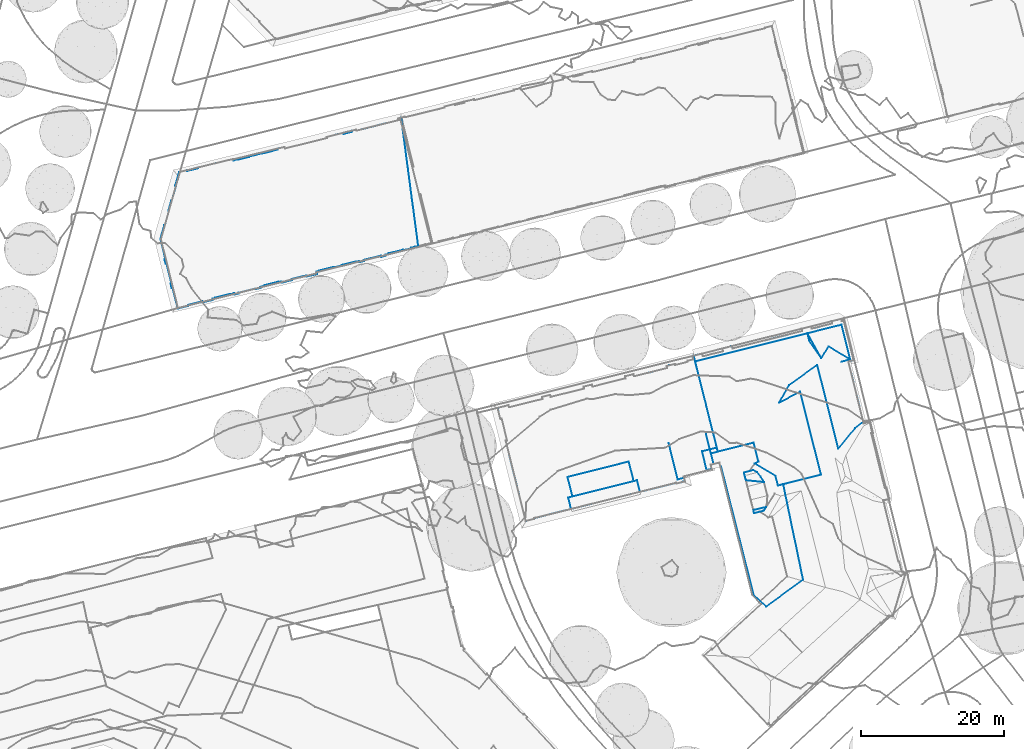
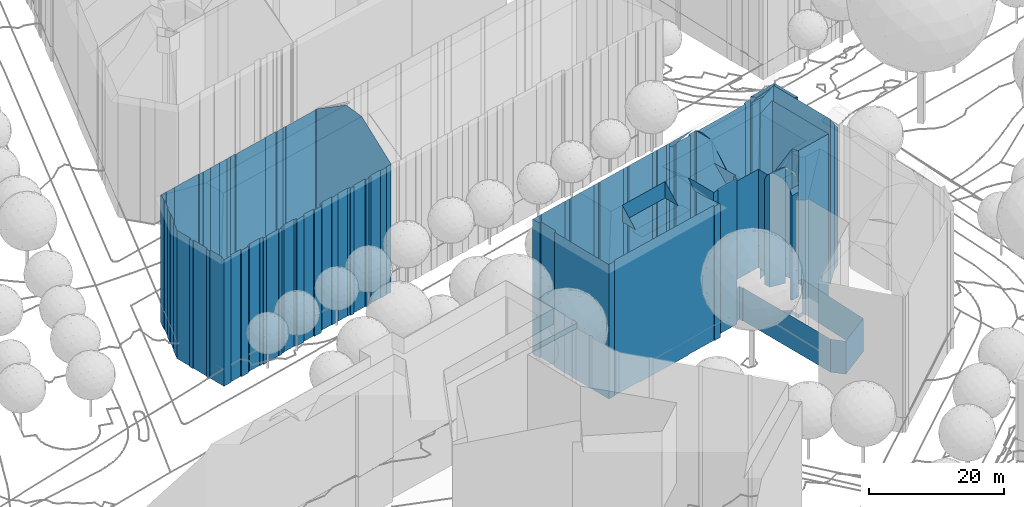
# Not in any storey, part 27 of 494: 2 walls.
"""IFC2X3 model written with IfcOpenShell, lengths in metres."""

from ifc_helpers import new_model, si_unit, frame, origin_with_axes, place, context, subcontext, project, faceted_brep, element, save


model = new_model("IFC2X3")

# Units and contexts
model_context = context("Model", 3, precision=1e-05, world=origin_with_axes())
body_context = subcontext(model_context, "Body", "Model", "MODEL_VIEW")
ifc_project = project(units=[si_unit("AREAUNIT", "SQUARE_METRE"), si_unit("LENGTHUNIT", "METRE")], contexts=[model_context])

# Walls
wall_1_placement = place(None, frame((124.1537320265, 278.7713160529, 533.7988), z_axis=(0.0, 0.0, 1.0), x_axis=(1.0, 0.0, 0.0)))
element("IfcWall", 1, at=wall_1_placement, Name="Wall 1", context=body_context, shape_type="Brep", body=[
    faceted_brep([(2.2820000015, 26.375, 6.6974), (2.1279999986, 26.995099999, 6.6974), (2.2820000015, 26.375, 0.6939), (2.381000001, 26.3975000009, 6.6974), (2.381000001, 26.3975000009, 0.6939), (6.9510000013, 8.4501999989, 6.6973), (6.9510000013, 8.4501999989, 0.6939), (8.6559999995, 6.8436999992, 6.6973), (8.6559999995, 6.8436999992, 0.6939), (13.8410000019, 10.6182000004, 6.6973), (13.8410000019, 10.6182000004, 0.6939), (11.068, 23.9716999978, 6.6974), (11.068, 23.9716999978, 0.6939), (-0.2919999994, 28.5762000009, 0.7269), (1.7730000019, 29.0907999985, 0.7269), (-0.2919999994, 28.5762000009, 0.6939), (0.3469999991, 25.9521000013, 0.7269), (0.3469999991, 25.9521000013, 0.6939), (1.0610000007, 26.1083999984, 0.7269), (1.0610000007, 26.1083999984, 0.6939), (10.4750000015, 35.365199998, 29.9172), (13.4299999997, 36.9188999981, 0.0), (10.4750000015, 35.365199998, 0.0), (13.4299999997, 36.9188999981, 30.2961), (16.3480000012, 25.2978000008, 30.2961), (11.8619999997, 37.8427999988, 30.2961), (11.8619999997, 37.8427999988, 0.0), (15.8280000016, 40.6669999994, 29.9172), (15.8280000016, 40.6669999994, 0.0), (18.7740000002, 28.9307000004, 29.9171), (18.7740000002, 28.9307000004, 0.0), (21.1400000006, 31.8506000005, 26.4205), (21.1400000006, 31.8506000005, 0.0), (14.4530000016, 45.0850000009, 2.6808), (14.4530000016, 45.0850000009, 2.8947), (16.3949999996, 41.6054999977, 2.8947), (14.4530000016, 45.0850000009, 0.0), (16.3949999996, 41.6054999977, 0.0), (17.379999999, 43.2344000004, 0.0), (17.379999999, 43.2344000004, 2.8947), (20.4450000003, 41.4248000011, 0.0), (20.4450000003, 41.4248000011, 2.8947), (20.4459999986, 41.4248000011, 2.6808), (22.2650000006, 32.7509999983, 24.8986), (22.2650000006, 32.7509999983, 0.0), (9.9919999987, 25.1123000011, 29.9171), (7.0700000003, 26.8691000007, 24.4947), (9.9919999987, 25.1123000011, 6.6974), (9.9919999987, 25.1123000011, 0.0), (9.9919999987, 25.1123000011, 0.6939), (7.0700000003, 26.8691000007, 0.0), (7.0700000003, 26.8691000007, 0.6939), (7.5890000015, 27.1444999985, 24.4947), (7.0700000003, 26.8691000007, 6.6974), (7.5890000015, 27.1444999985, 0.6939), (16.3480000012, 25.2978000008, 0.0), (10.324000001, 23.7841999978, 30.2961), (10.324000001, 23.7841999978, 0.0), (10.324000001, 23.7841999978, 6.6974), (10.324000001, 23.7841999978, 0.6939), (6.9270000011, 29.7802999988, 0.6939), (7.5890000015, 27.1444999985, 0.0), (6.9270000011, 29.7802999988, 24.4947), (7.5890000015, 27.1444999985, 6.6974), (1.9149999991, 28.5234000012, 0.6939), (6.9270000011, 29.7802999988, 0.0), (8.3839999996, 24.2577999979, 27.7623), (5.8379999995, 24.5194999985, 27.2494), (8.3839999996, 24.2577999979, 6.6974), (7.9239999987, 25.0429999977, 27.1874), (7.9239999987, 25.0429999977, 6.6974), (-2.7980000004, 24.8671999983, 27.1294), (-3.6860000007, 24.6444999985, 25.5946), (-2.7980000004, 24.8671999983, 24.8196), (-19.1160000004, 24.9853000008, 30.0042), (-18.4299999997, 22.254900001, 26.9644), (-19.1160000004, 24.9853000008, 26.9974), (-10.5449999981, 27.1387000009, 30.0042), (-10.5449999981, 27.1387000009, 26.9974), (-9.8599999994, 24.4043000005, 26.9644), (-3.8979999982, 24.1668999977, 25.1506), (-3.8979999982, 24.1668999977, 19.0452), (-3.8720000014, 24.0623999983, 0.7269), (-3.8979999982, 24.1669999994, 6.8334), (-3.8979999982, 24.1669999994, 12.9388), (1.0769999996, 26.0429999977, 27.1294), (-2.8480000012, 25.066399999, 27.1294), (1.0769999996, 26.0429999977, 0.7269), (-23.8280000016, 19.2030999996, 25.1916), (-23.8049999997, 19.1112999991, 25.0886), (-23.8280000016, 19.2030999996, 0.727), (-23.8049999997, 19.1112000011, 15.9145), (-28.5179999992, 33.1015999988, 14.3297), (-28.5179999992, 33.1015999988, 0.727), (-28.324000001, 33.1493999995, 0.727), (-27.5639999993, 30.0927999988, 25.2656), (-28.324000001, 33.1493999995, 25.2726), (-27.5639999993, 30.0927999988, 0.727), (-27.7569999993, 30.0438999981, 0.727), (-27.7569999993, 30.0438999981, 25.0616), (-24.9690000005, 18.8213, 25.0326), (-25.6660000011, 21.6268999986, 25.0406), (-26.7989999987, 26.186499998, 11.7439), (-27.0579999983, 27.2294999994, 25.0546), (-24.9690000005, 18.8213, 18.9492), (-24.9690000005, 18.8213, 12.8658), (-24.9690000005, 18.8213, 0.727), (-26.1889999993, 23.7313999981, 0.727), (-1.5139999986, 41.4393999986, 25.0986), (-1.6319999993, 41.9140999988, 24.6127), (-1.5139999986, 41.4393999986, 0.727), (-1.6319999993, 41.9140999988, 0.727), (-2.3289999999, 41.2373000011, 0.727), (-2.2930000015, 41.0927999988, 25.2486), (-2.3289999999, 41.2373000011, 25.1006), (-2.2930000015, 41.0927999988, 0.727), (-4.0610000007, 40.6523000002, 0.727), (-4.0610000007, 40.6523000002, 25.2546), (-4.0969999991, 40.7987999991, 25.1056), (-9.8969999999, 39.3612999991, 0.727), (-9.8969999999, 39.3612999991, 25.0856), (-9.824000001, 39.0683000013, 25.3936), (-9.824000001, 39.0683999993, 0.727), (-11.0590000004, 39.0742000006, 0.727), (-11.0590000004, 39.0742000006, 25.0796), (-10.9860000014, 38.7802999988, 25.3886), (-10.9860000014, 38.7802999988, 0.727), (-15.6409999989, 37.625, 0.727), (-15.6409999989, 37.625, 25.3706), (-15.7129999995, 37.9169999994, 0.727), (-15.7129999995, 37.9169999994, 25.0636), (-16.8770000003, 37.6268999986, 0.727), (-16.8770000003, 37.6268999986, 25.0606), (-16.8049999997, 37.3359000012, 25.3666), (-16.8049999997, 37.3359000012, 0.727), (-21.4620000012, 36.1816000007, 25.3476), (-21.4620000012, 36.1816000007, 0.727), (-21.5329999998, 36.4686999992, 25.0466), (-21.5329999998, 36.4686999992, 0.727), (-22.6259999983, 35.8925999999, 25.3436), (-22.6979999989, 36.1816000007, 25.0397), (-22.6259999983, 35.8925999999, 0.727), (-27.2859999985, 34.7362999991, 0.727), (-27.2859999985, 34.7362999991, 25.3246), (-27.3581000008, 35.0273000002, 0.727), (-27.3579999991, 35.0273000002, 25.0197), (-28.9010000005, 34.6444999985, 25.0137), (-9.3900000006, 24.5234000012, 0.7269), (-8.9820000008, 22.9013999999, 0.7269), (-9.3900000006, 24.5234000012, 0.617), (-19.0229999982, 22.1044999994, 0.727), (-19.0229999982, 22.1044999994, 0.617), (-18.6209999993, 20.5, 0.727), (-18.6209999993, 20.5, 0.617), (1.9149999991, 28.5234000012, 24.4947), (0.7890000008, 33.0155999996, 29.9602), (1.9149999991, 28.5234000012, 24.1807), (6.8839999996, 20.3486000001, 26.5365), (8.6400000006, 20.7793000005, 26.5365), (6.8839999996, 20.3486000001, 6.6974), (6.993999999, 19.9100999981, 25.6465), (6.993999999, 19.9100999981, 6.6974), (8.313000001, 20.2421999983, 25.6465), (8.313000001, 20.2421999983, 6.6974), (8.6400000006, 20.7793000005, 6.6974), (7.4180000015, 25.6347999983, 26.5365), (7.4180000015, 25.6347999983, 6.6974), (5.561999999, 25.6182000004, 25.6466), (6.8790000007, 25.9501999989, 25.6466), (5.561999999, 25.6182000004, 6.6974), (6.8790000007, 25.9501999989, 6.6974), (19.5450000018, 46.8827999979, 24.4947), (20.9189999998, 41.3271000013, 24.4947), (19.5450000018, 46.8827999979, 2.6808), (19.251000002, 46.7763999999, 24.4947), (19.2509000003, 46.7762999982, 2.6808), (19.1710000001, 47.0966999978, 24.4947), (19.1710000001, 47.0966999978, 2.6808), (17.8390000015, 46.7655999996, 24.4947), (17.8390000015, 46.7655999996, 2.6808), (17.9189999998, 46.4452999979, 24.4947), (17.9189999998, 46.4452999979, 2.6808), (13.7170000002, 45.3984000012, 24.4607), (13.6380000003, 45.7177999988, 24.4447), (13.6380000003, 45.7177999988, 2.6808), (14.9770000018, 46.052699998, 2.6808), (14.9770000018, 46.052699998, 24.4687), (15.057, 45.7324000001, 2.6808), (15.057, 45.7324000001, 13.5827), (15.057, 45.7324000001, 24.4847), (2.6660000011, 42.5731999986, 24.3957), (2.569000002, 42.9609000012, 24.3037), (2.6660000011, 42.5731999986, 2.6808), (2.569000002, 42.9609000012, 2.6808), (-0.175999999, 41.8641999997, 2.6808), (-0.175999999, 41.8641999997, 24.3947), (3.9149999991, 43.2969000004, 2.6808), (3.9149999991, 43.2969000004, 24.3037), (3.9409999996, 43.1884999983, 12.8018), (3.9910000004, 42.9756000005, 13.5227), (3.9910000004, 42.9756000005, 2.6808), (19.2250000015, 46.2841999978, 25.7356), (20.4450000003, 41.4248000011, 24.4947), (19.2250000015, 46.2841999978, 24.4947), (19.2250000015, 46.2841999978, 2.8947), (19.2250000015, 46.2841999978, 2.6808), (14.4530000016, 45.0850000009, 25.7356), (14.4530000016, 45.0850000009, 24.4947), (-1.2520000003, 41.1444999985, 2.6808), (-1.2520000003, 41.1444999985, 0.727), (-1.2520000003, 41.1444999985, 0.0), (20.4959999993, 41.2225999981, 2.6808), (-1.4560000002, 41.9580000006, 2.6808), (-1.4560000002, 41.9580000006, 0.727), (-1.4560000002, 41.9580000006, 24.3027), (-1.4560000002, 41.9580000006, 24.6117), (-0.1460000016, 36.7382999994, 29.9602), (-1.2520000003, 41.1444999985, 24.4947), (20.4450000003, 41.4248000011, 25.7515), (19.069000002, 41.0780999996, 26.1455), (16.3949999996, 41.6054999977, 29.0102), (14.7320000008, 43.9774999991, 26.1195), (14.7320000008, 43.9774999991, 25.8355), (0.9149999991, 26.6933999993, 27.1294), (0.9149999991, 26.6933000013, 0.6939), (2.1279999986, 26.995099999, 0.6939), (1.3229999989, 26.7958999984, 6.6974), (1.3229999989, 26.7958999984, 27.1294), (20.1909999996, 41.1475000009, 24.8596), (20.1909999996, 41.1473999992, 0.0), (20.4959999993, 41.2225999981, 0.0), (20.9189999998, 41.3271000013, 2.6808), (20.4959999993, 41.2225999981, 24.4947), (6.9270000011, 29.7802999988, 6.6974), (0.9499999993, 28.2802999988, 6.6974), (1.9149999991, 28.5234000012, 6.6974), (0.9499999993, 28.2802999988, 24.1807), (-3.6860000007, 24.6444999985, 27.1294), (-4.682, 28.6094000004, 27.1294), (-5.0020000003, 29.8856999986, 27.0404), (-4.682, 28.6094000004, 25.3176), (0.2179999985, 31.1952999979, 27.0624), (0.9499999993, 28.2802999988, 27.1294), (-2.6730000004, 24.3612999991, 24.8206), (-2.9160000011, 24.3007999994, 25.0326), (-2.9160000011, 24.3007999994, 0.7269), (-2.6730000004, 24.3612999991, 0.7269), (-3.8720000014, 24.0625, 25.0336), (-2.8480000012, 25.066399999, 0.7269), (-2.7980000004, 24.8671999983, 0.7269), (-23.8049999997, 19.1112999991, 0.727), (-24.9140000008, 18.8350000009, 25.0916), (-28.5179999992, 33.1015999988, 25.0686), (-28.8869999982, 34.5888999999, 25.0727), (-28.9010000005, 34.6444999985, 0.727), (-5.2430000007, 40.5137000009, 25.1076), (-4.8819999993, 40.6035000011, 25.1076), (-5.2430000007, 40.5137000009, 0.727), (-4.8819999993, 40.6035000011, 0.727), (-4.0969999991, 40.7987999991, 0.727), (-5.1710000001, 40.2225999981, 25.4066), (-5.2210000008, 40.4257999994, 0.727), (-5.1710000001, 40.2225999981, 0.727), (-5.9979999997, 40.0175999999, 0.727), (-5.9979999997, 40.0175999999, 25.4086), (-0.2729999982, 42.2518999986, 24.3027), (-0.2729999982, 42.2518999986, 2.6808), (0.3049999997, 34.9404000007, 30.0042), (0.3049999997, 34.9404000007, 30.2961), (1.7730000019, 29.0907999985, 0.6939), (0.7890000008, 33.0155999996, 0.7269), (1.9149999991, 28.5234000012, 0.0), (0.7890000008, 33.0155999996, 0.0), (0.3049999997, 34.9404000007, 0.727), (0.3049999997, 34.9404000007, 0.0), (-0.1460000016, 36.7382999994, 0.727), (-0.1460000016, 36.7382999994, 0.0), (5.6689999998, 25.1904000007, 26.5365), (5.8379999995, 24.5194999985, 6.6974), (5.6689999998, 25.1904000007, 6.6974), (15.6339999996, 45.8759999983, 2.6808), (15.6339999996, 45.8759999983, 24.4947), (3.7679999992, 43.2606999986, 2.6808), (3.7679999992, 43.2606999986, 24.3047), (3.9910000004, 42.9756000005, 24.3797), (8.1119999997, 44.0018999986, 24.3817), (8.0800000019, 43.9941000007, 2.6808), (13.7170000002, 45.3984000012, 13.5707), (9.9750000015, 44.4668000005, 24.3937), (13.7170000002, 45.3984000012, 2.6808), (-4.0870000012, 24.121100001, 25.1516), (-7.6090000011, 23.2432000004, 25.1586), (-7.6090000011, 23.2432000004, 0.7269), (-3.8979999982, 24.1669999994, 0.7269), (-4.0729999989, 24.123999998, 0.7269), (-8.9820000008, 22.9013999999, 25.1616), (-18.6209999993, 20.5, 25.1806), (-22.9849999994, 19.4131000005, 25.1896), (-8.9820000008, 22.9013999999, 0.617), (-22.6979999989, 36.1816000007, 0.727)], [[[0, 1, 2]], [[3, 0, 4]], [[5, 3, 6]], [[7, 5, 8]], [[9, 7, 10]], [[11, 9, 12]], [[13, 14, 15]], [[16, 13, 17]], [[18, 16, 19]], [[20, 21, 22]], [[23, 24, 21]], [[25, 20, 26]], [[27, 26, 28]], [[29, 27, 30]], [[31, 30, 32]], [[33, 34, 35]], [[36, 35, 37]], [[35, 36, 33]], [[38, 39, 40]], [[41, 42, 39]], [[42, 40, 39]], [[43, 32, 44]], [[45, 46, 47]], [[48, 49, 50]], [[51, 50, 49]], [[46, 52, 53]], [[51, 54, 50]], [[24, 11, 55]], [[11, 24, 56]], [[55, 12, 57]], [[12, 55, 11]], [[56, 58, 11]], [[59, 57, 12]], [[57, 59, 48]], [[49, 48, 59]], [[56, 45, 58]], [[54, 60, 61]], [[52, 62, 63]], [[60, 64, 65]], [[66, 67, 68]], [[69, 68, 70]], [[71, 72, 73]], [[74, 75, 76]], [[77, 74, 78]], [[79, 77, 78]], [[80, 81, 82]], [[83, 82, 84]], [[85, 86, 87]], [[88, 89, 90]], [[89, 91, 90]], [[92, 93, 94]], [[95, 96, 94]], [[97, 95, 94]], [[98, 99, 95]], [[95, 97, 98]], [[100, 101, 102]], [[103, 102, 101]], [[102, 104, 100]], [[105, 102, 106]], [[102, 107, 106]], [[103, 99, 102]], [[98, 107, 102]], [[98, 102, 99]], [[108, 109, 110]], [[110, 109, 111]], [[108, 110, 112]], [[113, 114, 115]], [[115, 114, 112]], [[116, 117, 113]], [[113, 115, 116]], [[118, 117, 116]], [[119, 120, 121]], [[122, 119, 121]], [[123, 124, 119]], [[125, 124, 126]], [[124, 123, 126]], [[127, 128, 126]], [[128, 125, 126]], [[129, 130, 127]], [[131, 132, 130]], [[130, 129, 131]], [[133, 132, 134]], [[132, 131, 134]], [[135, 133, 136]], [[133, 134, 136]], [[135, 136, 137]], [[138, 137, 136]], [[139, 140, 141]], [[142, 143, 139]], [[139, 141, 142]], [[144, 145, 143]], [[142, 144, 143]], [[146, 145, 144]], [[147, 148, 149]], [[150, 147, 151]], [[152, 151, 153]], [[154, 155, 156]], [[157, 158, 159]], [[160, 159, 161]], [[162, 160, 163]], [[158, 162, 164]], [[165, 70, 166]], [[167, 168, 169]], [[168, 166, 170]], [[171, 172, 173]], [[174, 171, 175]], [[176, 174, 177]], [[178, 176, 179]], [[180, 178, 181]], [[182, 183, 184]], [[185, 186, 187]], [[188, 186, 189]], [[184, 183, 185]], [[190, 191, 192]], [[192, 191, 193]], [[194, 195, 192]], [[190, 192, 195]], [[196, 197, 198]], [[196, 198, 199]], [[199, 200, 196]], [[201, 202, 203]], [[41, 204, 42]], [[204, 34, 205]], [[206, 201, 207]], [[208, 33, 209]], [[209, 36, 210]], [[37, 35, 38]], [[39, 38, 35]], [[42, 211, 40]], [[212, 208, 213]], [[214, 215, 216]], [[216, 217, 214]], [[202, 218, 219]], [[220, 221, 222]], [[222, 221, 206]], [[206, 207, 222]], [[223, 18, 224]], [[18, 223, 85]], [[224, 18, 19]], [[87, 18, 85]], [[225, 1, 226]], [[226, 223, 224]], [[223, 226, 227]], [[226, 224, 225]], [[228, 43, 44]], [[228, 44, 229]], [[229, 230, 211]], [[228, 231, 232]], [[211, 228, 229]], [[211, 231, 228]], [[232, 231, 172]], [[62, 156, 233]], [[156, 62, 154]], [[234, 235, 236]], [[237, 238, 72]], [[238, 239, 240]], [[236, 241, 242]], [[234, 236, 226]], [[227, 226, 236]], [[227, 236, 242]], [[243, 244, 245]], [[245, 246, 243]], [[244, 82, 245]], [[247, 82, 244]], [[248, 86, 73]], [[73, 86, 71]], [[73, 243, 246]], [[246, 249, 73]], [[73, 249, 248]], [[91, 105, 250]], [[91, 89, 251]], [[251, 100, 104]], [[104, 105, 91]], [[106, 250, 105]], [[91, 251, 104]], [[92, 252, 253]], [[93, 92, 254]], [[146, 254, 92]], [[92, 253, 146]], [[255, 256, 257]], [[258, 257, 256]], [[256, 118, 258]], [[259, 258, 118]], [[260, 255, 257]], [[261, 262, 260]], [[257, 261, 260]], [[263, 122, 121]], [[264, 260, 263]], [[262, 263, 260]], [[263, 121, 264]], [[109, 212, 111]], [[109, 215, 214]], [[214, 265, 212]], [[213, 111, 212]], [[212, 265, 266]], [[212, 109, 214]], [[267, 155, 268]], [[268, 216, 267]], [[269, 14, 270]], [[64, 269, 271]], [[271, 270, 272]], [[270, 271, 269]], [[272, 270, 273]], [[274, 273, 275]], [[273, 274, 272]], [[274, 275, 276]], [[276, 209, 210]], [[209, 276, 275]], [[67, 277, 167]], [[67, 167, 278]], [[167, 279, 278]], [[279, 167, 169]], [[187, 188, 280]], [[189, 281, 188]], [[180, 181, 188]], [[280, 188, 181]], [[281, 180, 188]], [[191, 282, 193]], [[283, 197, 196]], [[196, 282, 283]], [[283, 282, 191]], [[199, 284, 285]], [[200, 199, 286]], [[287, 286, 199]], [[199, 285, 287]], [[288, 182, 287]], [[289, 286, 287]], [[287, 285, 288]], [[81, 80, 290]], [[290, 291, 81]], [[81, 291, 84]], [[83, 84, 292]], [[293, 83, 294]], [[294, 83, 292]], [[292, 84, 148]], [[84, 291, 295]], [[296, 152, 295]], [[90, 296, 297]], [[88, 90, 297]], [[152, 296, 90]], [[298, 148, 153]], [[153, 148, 152]], [[152, 148, 295]], [[295, 148, 84]], [[1, 225, 2]], [[0, 2, 4]], [[3, 4, 6]], [[5, 6, 8]], [[7, 8, 10]], [[9, 10, 12]], [[14, 269, 15]], [[13, 15, 17]], [[16, 17, 19]], [[23, 21, 20]], [[24, 55, 21]], [[20, 22, 26]], [[25, 26, 27]], [[27, 28, 30]], [[29, 30, 31]], [[31, 32, 43]], [[46, 53, 47]], [[52, 63, 53]], [[54, 61, 50]], [[45, 47, 58]], [[60, 65, 61]], [[62, 233, 63]], [[64, 271, 65]], [[67, 278, 68]], [[66, 68, 69]], [[237, 72, 71]], [[74, 76, 78]], [[80, 82, 247]], [[81, 84, 82]], [[293, 82, 83]], [[86, 248, 87]], [[91, 250, 90]], [[252, 94, 96]], [[94, 252, 92]], [[105, 104, 102]], [[114, 108, 112]], [[116, 259, 118]], [[120, 119, 124]], [[128, 127, 130]], [[299, 140, 138]], [[137, 138, 140]], [[140, 299, 141]], [[254, 146, 144]], [[148, 298, 149]], [[147, 149, 151]], [[150, 151, 152]], [[158, 164, 159]], [[157, 159, 160]], [[160, 161, 163]], [[162, 163, 164]], [[69, 70, 165]], [[168, 170, 169]], [[165, 166, 168]], [[172, 231, 173]], [[171, 173, 175]], [[174, 175, 177]], [[176, 177, 179]], [[178, 179, 181]], [[287, 184, 289]], [[182, 184, 287]], [[187, 186, 188]], [[183, 186, 185]], [[266, 265, 194]], [[195, 194, 265]], [[198, 284, 199]], [[284, 198, 197]], [[218, 202, 201]], [[204, 205, 42]], [[34, 33, 205]], [[201, 203, 207]], [[33, 36, 209]], [[211, 230, 40]], [[208, 209, 213]], [[156, 235, 233]], [[235, 156, 236]], [[238, 240, 72]]]),
])
wall_2_placement = place(None, frame((48.0647320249, 337.0857160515, 535.8227), z_axis=(0.0, 0.0, 1.0), x_axis=(1.0, 0.0, 0.0)))
element("IfcWall", 2, at=wall_2_placement, Name="Wall 0", context=body_context, shape_type="Brep", body=[
    faceted_brep([(34.6359999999, 9.8291000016, 27.7704), (35.1359999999, 6.0625, 27.7703), (34.6359999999, 9.8291000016, 0.0), (35.182, 5.7188000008, 27.5814), (35.1359999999, 6.0625, 0.0), (36.0780000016, -1.0282999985, 0.0), (35.6140000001, -1.1415999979, 23.1418), (35.6640000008, -1.1297999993, 8.6782), (35.3230000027, -1.2137999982, 23.1418), (35.2910000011, -1.2215999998, 0.0), (35.182, 5.7188000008, 0.0), (36.0780000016, -1.0282999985, 23.1418), (16.5530000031, -6.0126999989, 23.0468), (16.5530000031, -6.0126999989, 0.0), (16.5670000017, -6.0839000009, 22.9998), (16.5670000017, -6.0839000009, 0.0), (16.9790000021, -5.9715999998, 0.0), (16.9790000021, -5.9715999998, 23.0058), (17.0181000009, -6.1464000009, 0.0), (17.018000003, -6.1464000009, 22.8898), (18.4250000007, -5.7861000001, 22.8978), (18.4250000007, -5.7861000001, 0.0), (20.4300000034, -5.1259000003, 23.0008), (18.3900000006, -5.6268999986, 0.0), (20.4300000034, -5.1259000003, 0.0), (20.4680000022, -5.2899999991, 0.0), (20.4680000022, -5.2899999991, 22.8908), (21.9140000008, -4.9384000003, 0.0), (21.9140000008, -4.9384000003, 22.8868), (21.8280000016, -4.6004999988, 23.1128), (21.8280000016, -4.6004999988, 0.0), (22.2300000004, -4.4941000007, 0.0), (22.2300000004, -4.4941000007, 23.1178), (22.2210000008, -4.4442999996, 0.0), (22.2210000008, -4.4442999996, 23.1508), (24.2039999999, -3.9422999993, 0.0), (24.2039999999, -3.9422999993, 23.1578), (24.2240000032, -4.0262999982, 23.1018), (24.2240000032, -4.0262999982, 0.0), (25.3859999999, -3.7362999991, 23.1028), (25.3859999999, -3.7362999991, 0.0), (25.3740000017, -3.6668999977, 23.1488), (25.3740000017, -3.6669999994, 0.0), (27.3430000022, -3.1717999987, 23.1528), (27.3430000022, -3.1717999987, 0.0), (27.3560000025, -3.2284999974, 23.1158), (27.8330000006, -3.1180999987, 0.0), (27.8330000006, -3.1180999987, 23.1108), (27.3560000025, -3.2284999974, 0.0), (27.8660000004, -3.2752999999, 23.0058), (27.8660000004, -3.2752999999, 0.0), (28.4820000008, -3.1210999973, 23.0068), (28.4820000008, -3.1210999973, 0.0), (28.4470000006, -2.9608999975, 0.0), (30.8550000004, -2.3662, 0.0), (30.8550000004, -2.3662, 23.1128), (30.8890000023, -2.5340999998, 23.0018), (30.8890000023, -2.5340999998, 0.0), (31.5450000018, -2.3691000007, 0.0), (31.5450000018, -2.3691000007, 23.0028), (31.5140000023, -2.2284999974, 0.0), (31.5140000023, -2.2284999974, 23.0968), (31.9720000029, -2.1092999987, 23.0998), (31.9580000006, -2.0321999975, 23.1508), (31.9580000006, -2.0321999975, 0.0), (31.9720000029, -2.1092999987, 0.0), (33.9360000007, -1.5487999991, 0.0), (33.9360000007, -1.5487999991, 23.1468), (33.950000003, -1.6162, 23.1018), (33.950000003, -1.6162, 0.0), (35.1140000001, -1.3348999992, 0.0), (35.1140000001, -1.3348999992, 23.0978), (35.1000000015, -1.2685000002, 0.0), (35.1000000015, -1.2685000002, 23.1418), (3.876000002, -9.3964000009, 0.0), (2.4410000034, -9.753899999, 22.8918), (2.4410000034, -9.753899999, 0.0), (3.876000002, -9.3964000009, 22.8938), (3.8480000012, -9.2597000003, 22.9838), (3.8480000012, -9.2597000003, 0.0), (5.8650000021, -8.7577999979, 0.0), (5.8650000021, -8.7577999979, 22.9848), (5.8980000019, -8.9081999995, 22.8858), (5.8980000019, -8.9081999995, 0.0), (7.3340000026, -8.5506999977, 22.8858), (7.3340000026, -8.5506999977, 0.0), (7.2960000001, -8.3856999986, 22.9958), (7.2960000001, -8.3856999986, 0.0), (7.6760000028, -8.2928999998, 0.0), (7.6760000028, -8.2928999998, 22.9958), (7.6620000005, -8.2324000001, 23.0358), (7.6620000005, -8.2324000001, 0.0), (9.7170000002, -7.7949000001, 0.0), (9.7170000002, -7.7949000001, 22.9908), (9.7030000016, -7.7342999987, 0.0), (10.3260000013, -7.6307999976, 22.9988), (10.3260000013, -7.6307999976, 0.0), (10.3650000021, -7.807599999, 22.8818), (10.9740000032, -7.6483999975, 22.8868), (10.9740000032, -7.6483999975, 0.0), (10.3650000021, -7.807599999, 0.0), (10.9650000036, -7.566399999, 0.0), (10.9650000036, -7.566399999, 22.9398), (13.4020000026, -6.9549999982, 22.9448), (13.4020000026, -6.9549999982, 0.0), (13.4180000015, -7.0262999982, 0.0), (14.0080000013, -6.8768999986, 22.8998), (13.4180000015, -7.0262999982, 22.8978), (14.0080000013, -6.8768999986, 0.0), (13.9790000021, -6.7333999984, 22.9948), (14.5620000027, -6.5918000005, 0.0), (14.5620000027, -6.5918000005, 22.9928), (13.9790000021, -6.7333999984, 0.0), (14.5450000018, -6.5126999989, 0.0), (14.5450000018, -6.5126999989, 23.0448), (0.0800000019, 0.2774000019, 23.2978), (0.1660000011, 0.5733000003, 0.0), (0.0, 0.0, 23.2048), (0.7039999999, -2.807599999, 0.0), (0.7039999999, -2.807599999, 23.2108), (0.1770000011, -0.7049999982, 23.2068), (0.5670000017, -2.8438000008, 0.0), (0.5670000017, -2.8436999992, 23.1198), (0.7400000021, -3.4881999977, 23.1278), (0.7400000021, -3.4881999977, 0.0), (0.8590000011, -3.4648000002, 0.0), (0.8590000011, -3.4648000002, 23.2058), (1.5610000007, -6.2547999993, 23.2128), (1.5610000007, -6.2547999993, 0.0), (1.4330000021, -6.2909999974, 0.0), (1.4330000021, -6.2909999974, 23.1278), (1.5920000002, -6.9247999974, 0.0), (1.7150000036, -6.8983999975, 23.2098), (1.5920000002, -6.9247999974, 23.1288), (1.7150000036, -6.8983999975, 0.0), (2.1120000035, -8.4589000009, 23.2158), (1.9780000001, -7.9335999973, 8.7022), (2.0800000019, 7.4229000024, 23.3528), (2.4520000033, 8.7618000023, 0.0), (2.0800000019, 7.4229000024, 0.0), (2.1770000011, 7.3858000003, 0.0), (2.1770000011, 7.3858000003, 23.4328), (1.5920000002, 5.3194000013, 0.0), (1.5921000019, 5.3194000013, 23.4428), (1.5151000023, 5.3438000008, 0.0), (1.5151000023, 5.3438000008, 23.3798), (1.1180000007, 3.9453999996, 23.3868), (1.1180000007, 3.9453999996, 0.0), (1.194000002, 3.9180000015, 23.4488), (1.194000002, 3.9180000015, 0.0), (0.6160000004, 1.8780000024, 23.4588), (0.5472000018, 1.8965000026, 0.0), (0.5472000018, 1.8966000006, 23.4028), (30.2790000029, 15.8399000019, 0.0), (30.6530000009, 15.933600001, 23.2268), (32.0670000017, 16.2872000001, 11.2509), (33.3000000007, 16.5947999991, 23.2288), (33.3000000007, 16.5947999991, 0.0), (33.6900000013, 16.9493000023, 23.0658), (33.6900000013, 16.9493000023, 0.0), (33.5520000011, 16.9151000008, 23.0658), (33.2390000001, 16.8379000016, 23.0638), (33.5500000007, 16.9141000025, 0.0), (33.2390000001, 16.8379000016, 0.0), (25.5670000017, 14.8164000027, 0.0), (25.5670000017, 14.8164000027, 23.1348), (25.6000000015, 14.6534000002, 0.0), (25.6000000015, 14.6534000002, 23.2428), (23.2530000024, 14.2344000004, 23.1388), (23.2530000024, 14.2344000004, 0.0), (23.2900000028, 14.0888999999, 23.2368), (23.2900000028, 14.0888999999, 0.0), (17.4160000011, 12.6220999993, 0.0), (17.3590000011, 12.8544999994, 0.0), (17.4160000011, 12.6220999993, 23.2418), (16.3880000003, 12.6182000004, 0.0), (16.3880000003, 12.6182000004, 23.0828), (17.3590000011, 12.8544999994, 23.0848), (16.4060000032, 12.4776000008, 0.0), (15.6510000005, 12.2969000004, 23.1698), (16.4060000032, 12.4776000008, 23.1738), (15.6510000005, 12.2969000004, 0.0), (15.6554000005, 12.2657000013, 0.0), (15.6550000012, 12.2657000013, 23.1898), (14.1790000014, 11.9043000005, 0.0), (14.1790000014, 11.9043000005, 23.1868), (14.1730000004, 11.947300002, 0.0), (14.1730000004, 11.947300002, 23.1588), (12.4170000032, 11.5, 0.0), (12.4170000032, 11.5, 23.1658), (12.4210000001, 11.4620000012, 23.1908), (12.4210000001, 11.4620000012, 0.0), (10.9600000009, 11.1495000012, 23.1588), (10.9700000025, 11.0918000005, 23.1968), (10.9700000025, 11.0918000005, 0.0), (10.2130000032, 10.9600000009, 23.1608), (10.2130000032, 10.9600000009, 0.0), (10.1610000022, 11.1601999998, 0.0), (10.1610000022, 11.1601999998, 23.0258), (5.2420000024, 9.9629000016, 23.0108), (5.2420000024, 9.9629000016, 0.0), (5.2630000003, 9.8594000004, 23.0798), (5.2630000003, 9.8594000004, 0.0), (3.7320000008, 9.4922000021, 23.0708), (3.7320000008, 9.4922000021, 0.0), (3.7139000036, 9.5908000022, 0.0), (3.7140000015, 9.5909000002, 23.0058), (2.6090000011, 9.3243000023, 23.0008), (2.6090000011, 9.3243000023, 0.0), (2.4480000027, 8.7470999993, 23.3408), (27.4270000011, 15.1280000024, 23.2298), (27.4270000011, 15.1280000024, 0.0), (27.3901000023, 15.2734999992, 0.0), (27.3900000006, 15.2734999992, 23.1318), (26.8230000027, 15.1308999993, 23.1328), (26.8230000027, 15.1308999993, 0.0), (26.8520000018, 14.9678000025, 23.2408), (26.8520000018, 14.9678000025, 0.0), (18.3900000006, -5.6268999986, 23.0028), (28.4470000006, -2.9608999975, 23.1138), (2.3170000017, -9.2655999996, 23.2188), (9.7030000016, -7.7342999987, 23.0318), (0.0, 0.0, 0.0), (0.1730000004, 0.5976999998, 23.4048), (0.6160000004, 1.8780000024, 0.0), (10.9600000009, 11.1495000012, 0.0)], [[[0, 1, 2]], [[1, 3, 4]], [[5, 6, 7]], [[6, 8, 7]], [[8, 9, 7]], [[7, 9, 5]], [[3, 5, 10]], [[11, 5, 3]], [[12, 13, 14]], [[14, 13, 15]], [[14, 16, 17]], [[16, 14, 15]], [[18, 19, 17]], [[17, 16, 18]], [[20, 18, 21]], [[22, 23, 24]], [[25, 26, 22]], [[22, 24, 25]], [[27, 28, 25]], [[29, 28, 30]], [[30, 28, 27]], [[31, 32, 30]], [[33, 34, 32]], [[32, 31, 33]], [[35, 36, 34]], [[37, 35, 38]], [[37, 38, 39]], [[39, 38, 40]], [[41, 39, 40]], [[41, 40, 42]], [[43, 41, 42]], [[43, 44, 45]], [[46, 47, 48]], [[47, 46, 49]], [[49, 46, 50]], [[51, 49, 52]], [[51, 52, 53]], [[54, 55, 53]], [[55, 54, 56]], [[57, 56, 54]], [[56, 57, 58]], [[59, 60, 61]], [[60, 62, 61]], [[63, 62, 64]], [[65, 64, 62]], [[66, 67, 64]], [[64, 67, 63]], [[67, 66, 68]], [[68, 66, 69]], [[70, 71, 68]], [[68, 69, 70]], [[71, 70, 72]], [[8, 73, 9]], [[73, 72, 9]], [[74, 75, 76]], [[77, 74, 78]], [[78, 74, 79]], [[80, 81, 79]], [[78, 79, 81]], [[82, 80, 83]], [[82, 81, 80]], [[84, 83, 85]], [[86, 84, 87]], [[88, 89, 86]], [[86, 87, 88]], [[90, 89, 91]], [[89, 88, 91]], [[92, 93, 94]], [[93, 92, 95]], [[95, 92, 96]], [[95, 96, 97]], [[98, 97, 99]], [[99, 97, 100]], [[101, 102, 99]], [[103, 102, 104]], [[102, 101, 104]], [[103, 104, 105]], [[106, 107, 108]], [[109, 106, 108]], [[110, 111, 112]], [[111, 109, 112]], [[110, 113, 111]], [[12, 114, 13]], [[114, 113, 13]], [[115, 116, 117]], [[118, 119, 120]], [[120, 117, 118]], [[121, 122, 119]], [[119, 118, 121]], [[123, 121, 124]], [[125, 126, 124]], [[123, 124, 126]], [[127, 126, 128]], [[126, 125, 128]], [[129, 130, 127]], [[129, 127, 128]], [[130, 129, 131]], [[132, 133, 134]], [[134, 133, 131]], [[135, 132, 136]], [[136, 134, 76]], [[137, 138, 139]], [[137, 139, 140]], [[141, 140, 142]], [[143, 144, 145]], [[143, 142, 144]], [[146, 144, 147]], [[148, 146, 149]], [[146, 147, 149]], [[148, 149, 150]], [[150, 151, 152]], [[153, 154, 155]], [[156, 157, 155]], [[155, 157, 153]], [[2, 158, 0]], [[2, 159, 158]], [[160, 158, 159]], [[161, 162, 163]], [[161, 163, 156]], [[156, 163, 157]], [[164, 165, 166]], [[167, 166, 165]], [[168, 164, 169]], [[170, 168, 171]], [[168, 169, 171]], [[171, 172, 170]], [[173, 174, 172]], [[175, 176, 177]], [[176, 175, 178]], [[179, 180, 181]], [[180, 178, 181]], [[182, 183, 179]], [[179, 181, 182]], [[182, 184, 185]], [[185, 183, 182]], [[186, 187, 184]], [[188, 189, 186]], [[187, 186, 189]], [[190, 189, 191]], [[189, 188, 191]], [[192, 193, 194]], [[195, 192, 196]], [[196, 197, 198]], [[196, 198, 195]], [[199, 198, 200]], [[200, 198, 197]], [[201, 200, 202]], [[203, 202, 204]], [[205, 206, 203]], [[204, 205, 203]], [[207, 206, 205]], [[207, 208, 209]], [[209, 208, 138]], [[210, 154, 211]], [[211, 154, 153]], [[212, 213, 210]], [[214, 215, 216]], [[217, 216, 215]], [[216, 217, 166]], [[1, 4, 2]], [[3, 10, 4]], [[5, 11, 6]], [[19, 18, 20]], [[20, 21, 218]], [[23, 218, 21]], [[218, 23, 22]], [[25, 28, 26]], [[29, 30, 32]], [[34, 33, 35]], [[36, 35, 37]], [[43, 42, 44]], [[48, 45, 44]], [[45, 48, 47]], [[52, 49, 50]], [[219, 51, 53]], [[219, 53, 55]], [[58, 59, 56]], [[60, 59, 58]], [[62, 60, 65]], [[71, 72, 73]], [[220, 76, 75]], [[75, 74, 77]], [[82, 83, 84]], [[84, 85, 87]], [[90, 94, 221]], [[90, 91, 94]], [[221, 94, 93]], [[97, 96, 100]], [[99, 102, 98]], [[105, 107, 103]], [[107, 105, 108]], [[108, 112, 109]], [[114, 111, 113]], [[222, 117, 116]], [[223, 116, 115]], [[117, 222, 118]], [[122, 121, 123]], [[131, 133, 130]], [[135, 136, 76]], [[76, 220, 135]], [[132, 134, 136]], [[209, 138, 137]], [[137, 140, 141]], [[141, 142, 143]], [[145, 144, 146]], [[150, 149, 224]], [[150, 224, 151]], [[223, 152, 151]], [[223, 151, 116]], [[156, 155, 154]], [[162, 160, 159]], [[160, 162, 161]], [[165, 164, 168]], [[174, 170, 172]], [[173, 177, 174]], [[177, 173, 175]], [[176, 178, 180]], [[184, 187, 185]], [[190, 194, 193]], [[190, 191, 194]], [[225, 192, 194]], [[192, 225, 196]], [[199, 200, 201]], [[201, 202, 203]], [[207, 205, 208]], [[210, 211, 212]], [[213, 212, 214]], [[214, 212, 215]], [[167, 216, 166]]]),
])

save(model, "model.ifc")
